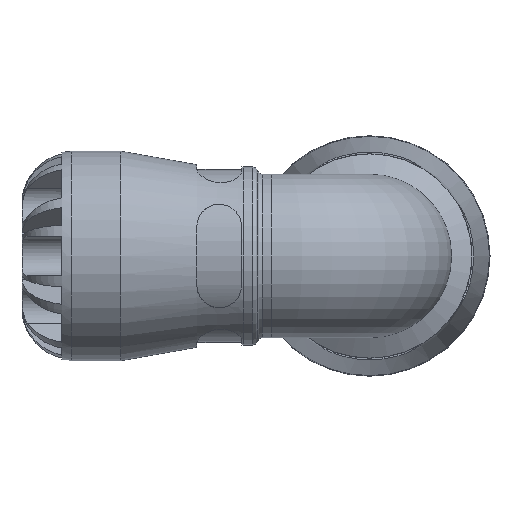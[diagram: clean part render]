
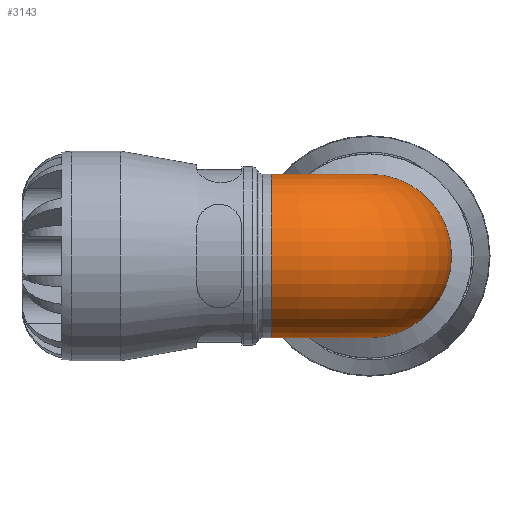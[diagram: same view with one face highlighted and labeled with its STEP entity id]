
A CAD part, left-side view. The second image highlights one B-rep face of the part: STEP entity #3143.
In plain terms, the highlighted toroidal (fillet/blend) face has major radius 19.24 mm and minor radius 15.99 mm.
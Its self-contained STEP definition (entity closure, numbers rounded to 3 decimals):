
#579=TOROIDAL_SURFACE('',#3345,19.24,15.99);
#657=FACE_BOUND('',#890,.T.);
#691=FACE_OUTER_BOUND('',#889,.T.);
#889=EDGE_LOOP('',(#2037));
#890=EDGE_LOOP('',(#2038));
#1111=CIRCLE('',#3339,15.99);
#1115=CIRCLE('',#3346,15.99);
#1279=VERTEX_POINT('',#4590);
#1283=VERTEX_POINT('',#4601);
#1575=EDGE_CURVE('',#1279,#1279,#1111,.T.);
#1579=EDGE_CURVE('',#1283,#1283,#1115,.T.);
#2037=ORIENTED_EDGE('',*,*,#1575,.F.);
#2038=ORIENTED_EDGE('',*,*,#1579,.F.);
#3143=ADVANCED_FACE('',(#691,#657),#579,.T.);
#3339=AXIS2_PLACEMENT_3D('',#4591,#3707,#3708);
#3345=AXIS2_PLACEMENT_3D('',#4600,#3719,#3720);
#3346=AXIS2_PLACEMENT_3D('',#4602,#3721,#3722);
#3707=DIRECTION('center_axis',(1.,0.,0.));
#3708=DIRECTION('ref_axis',(0.,-1.,0.));
#3719=DIRECTION('center_axis',(0.,0.,1.));
#3720=DIRECTION('ref_axis',(1.,0.,0.));
#3721=DIRECTION('center_axis',(0.,1.,0.));
#3722=DIRECTION('ref_axis',(1.,0.,0.));
#4590=CARTESIAN_POINT('',(19.24,15.99,0.));
#4591=CARTESIAN_POINT('Origin',(19.24,0.,0.));
#4600=CARTESIAN_POINT('Origin',(19.24,19.24,0.));
#4601=CARTESIAN_POINT('',(0.,19.24,15.99));
#4602=CARTESIAN_POINT('Origin',(0.,19.24,0.));
